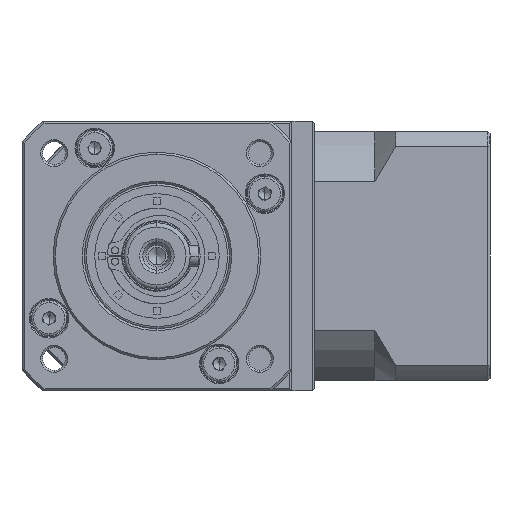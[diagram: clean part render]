
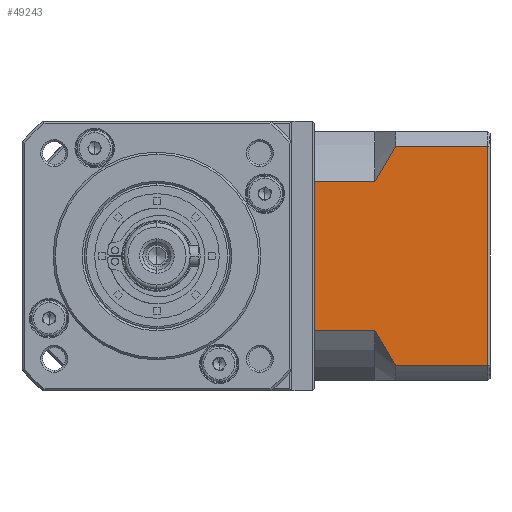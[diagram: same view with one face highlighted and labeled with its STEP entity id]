
A CAD part, left-side view. The second image highlights one B-rep face of the part: STEP entity #49243.
In plain terms, the highlighted planar face has unit normal (-1, 0, 0).
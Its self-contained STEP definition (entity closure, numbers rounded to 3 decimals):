
#3555 = VECTOR ( 'NONE', #16861, 1000. ) ;
#3928 = CARTESIAN_POINT ( 'NONE',  ( -27.429, -66.234, -135.581 ) ) ;
#4198 = LINE ( 'NONE', #146186, #38508 ) ;
#7054 = CARTESIAN_POINT ( 'NONE',  ( -27.429, -51.734, -147.553 ) ) ;
#7602 = DIRECTION ( 'NONE',  ( 0., 0., -1. ) ) ;
#8153 = CARTESIAN_POINT ( 'NONE',  ( -27.429, -93.434, -91.095 ) ) ;
#12429 = LINE ( 'NONE', #127752, #111125 ) ;
#16861 = DIRECTION ( 'NONE',  ( 0., 1., 0. ) ) ;
#28323 = DIRECTION ( 'NONE',  ( 1., 0., 0. ) ) ;
#32746 = EDGE_CURVE ( 'NONE', #118142, #96211, #48771, .T. ) ;
#33723 = DIRECTION ( 'NONE',  ( 0., -1., 0. ) ) ;
#35951 = CARTESIAN_POINT ( 'NONE',  ( -27.429, -71.234, -91.095 ) ) ;
#37943 = CARTESIAN_POINT ( 'NONE',  ( -27.429, -67.784, -138.463 ) ) ;
#38508 = VECTOR ( 'NONE', #81518, 1000. ) ;
#38879 = ORIENTED_EDGE ( 'NONE', *, *, #87727, .T. ) ;
#39846 = VERTEX_POINT ( 'NONE', #66299 ) ;
#40219 = PLANE ( 'NONE',  #163981 ) ;
#48771 = LINE ( 'NONE', #161974, #113240 ) ;
#48882 = CARTESIAN_POINT ( 'NONE',  ( -27.429, -69.461, -93.834 ) ) ;
#49243 = ADVANCED_FACE ( 'NONE', ( #108383 ), #40219, .F. ) ;
#50876 = CARTESIAN_POINT ( 'NONE',  ( -27.429, -70.332, -142.648 ) ) ;
#57787 = CARTESIAN_POINT ( 'NONE',  ( -27.429, -51.734, -99.525 ) ) ;
#61886 = CARTESIAN_POINT ( 'NONE',  ( -27.429, -66.982, -98.073 ) ) ;
#62702 = CARTESIAN_POINT ( 'NONE',  ( -27.429, -71.234, -144.01 ) ) ;
#63191 = CARTESIAN_POINT ( 'NONE',  ( -27.429, -66.234, -91.095 ) ) ;
#64929 = B_SPLINE_CURVE_WITH_KNOTS ( 'NONE', 3,
 ( #89156, #88610, #37943, #127983, #50876, #140856 ),
 .UNSPECIFIED., .F., .F.,
 ( 4, 2, 4 ),
 ( 0.1, 0.104, 0.109 ),
 .UNSPECIFIED. ) ;
#66299 = CARTESIAN_POINT ( 'NONE',  ( -27.429, -51.734, -135.581 ) ) ;
#70732 = EDGE_CURVE ( 'NONE', #100751, #71832, #4198, .T. ) ;
#71575 = ORIENTED_EDGE ( 'NONE', *, *, #32746, .F. ) ;
#71832 = VERTEX_POINT ( 'NONE', #62702 ) ;
#81518 = DIRECTION ( 'NONE',  ( 0., 1., 0. ) ) ;
#87318 = LINE ( 'NONE', #63191, #117500 ) ;
#87727 = EDGE_CURVE ( 'NONE', #118142, #39846, #163380, .T. ) ;
#88610 = CARTESIAN_POINT ( 'NONE',  ( -27.429, -66.984, -137.037 ) ) ;
#89156 = CARTESIAN_POINT ( 'NONE',  ( -27.429, -66.234, -135.581 ) ) ;
#90399 = EDGE_LOOP ( 'NONE', ( #154012, #134436, #138057, #107269, #71575, #38879, #92791, #150263 ) ) ;
#91663 = EDGE_CURVE ( 'NONE', #118295, #39846, #102326, .T. ) ;
#92791 = ORIENTED_EDGE ( 'NONE', *, *, #91663, .F. ) ;
#92987 = CARTESIAN_POINT ( 'NONE',  ( -27.429, -71.234, -91.095 ) ) ;
#96211 = VERTEX_POINT ( 'NONE', #137305 ) ;
#99847 = CARTESIAN_POINT ( 'NONE',  ( -27.429, -93.434, -144.01 ) ) ;
#100100 = CARTESIAN_POINT ( 'NONE',  ( -27.429, -70.334, -92.455 ) ) ;
#100751 = VERTEX_POINT ( 'NONE', #99847 ) ;
#102326 = LINE ( 'NONE', #3928, #3555 ) ;
#103037 = EDGE_CURVE ( 'NONE', #100751, #146368, #12429, .T. ) ;
#105462 = CARTESIAN_POINT ( 'NONE',  ( -27.429, -93.934, -147.553 ) ) ;
#107269 = ORIENTED_EDGE ( 'NONE', *, *, #112632, .T. ) ;
#108383 = FACE_OUTER_BOUND ( 'NONE', #90399, .T. ) ;
#111125 = VECTOR ( 'NONE', #140623, 1000. ) ;
#112632 = EDGE_CURVE ( 'NONE', #130262, #96211, #138197, .T. ) ;
#113240 = VECTOR ( 'NONE', #33723, 1000. ) ;
#117500 = VECTOR ( 'NONE', #165997, 1000. ) ;
#118142 = VERTEX_POINT ( 'NONE', #57787 ) ;
#118295 = VERTEX_POINT ( 'NONE', #138092 ) ;
#118375 = DIRECTION ( 'NONE',  ( 0., 1., 0. ) ) ;
#127752 = CARTESIAN_POINT ( 'NONE',  ( -27.429, -93.434, -147.553 ) ) ;
#127983 = CARTESIAN_POINT ( 'NONE',  ( -27.429, -69.458, -141.268 ) ) ;
#129235 = VECTOR ( 'NONE', #7602, 1000. ) ;
#130262 = VERTEX_POINT ( 'NONE', #92987 ) ;
#134436 = ORIENTED_EDGE ( 'NONE', *, *, #103037, .T. ) ;
#137305 = CARTESIAN_POINT ( 'NONE',  ( -27.429, -66.234, -99.525 ) ) ;
#138057 = ORIENTED_EDGE ( 'NONE', *, *, #149289, .F. ) ;
#138092 = CARTESIAN_POINT ( 'NONE',  ( -27.429, -66.234, -135.581 ) ) ;
#138197 = B_SPLINE_CURVE_WITH_KNOTS ( 'NONE', 3,
 ( #35951, #100100, #48882, #138833, #61886, #151808 ),
 .UNSPECIFIED., .F., .F.,
 ( 4, 2, 4 ),
 ( 0.052, 0.057, 0.062 ),
 .UNSPECIFIED. ) ;
#138833 = CARTESIAN_POINT ( 'NONE',  ( -27.429, -67.785, -96.642 ) ) ;
#140623 = DIRECTION ( 'NONE',  ( 0., 0., 1. ) ) ;
#140856 = CARTESIAN_POINT ( 'NONE',  ( -27.429, -71.234, -144.01 ) ) ;
#146186 = CARTESIAN_POINT ( 'NONE',  ( -27.429, -66.234, -144.01 ) ) ;
#146368 = VERTEX_POINT ( 'NONE', #8153 ) ;
#149289 = EDGE_CURVE ( 'NONE', #130262, #146368, #87318, .T. ) ;
#150263 = ORIENTED_EDGE ( 'NONE', *, *, #163798, .T. ) ;
#151808 = CARTESIAN_POINT ( 'NONE',  ( -27.429, -66.234, -99.525 ) ) ;
#154012 = ORIENTED_EDGE ( 'NONE', *, *, #70732, .F. ) ;
#161974 = CARTESIAN_POINT ( 'NONE',  ( -27.429, -66.234, -99.525 ) ) ;
#163380 = LINE ( 'NONE', #7054, #129235 ) ;
#163798 = EDGE_CURVE ( 'NONE', #118295, #71832, #64929, .T. ) ;
#163981 = AXIS2_PLACEMENT_3D ( 'NONE', #105462, #28323, #118375 ) ;
#165997 = DIRECTION ( 'NONE',  ( 0., -1., 0. ) ) ;
